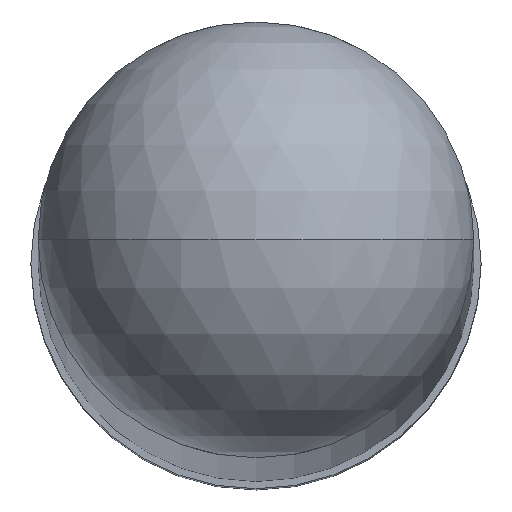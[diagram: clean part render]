
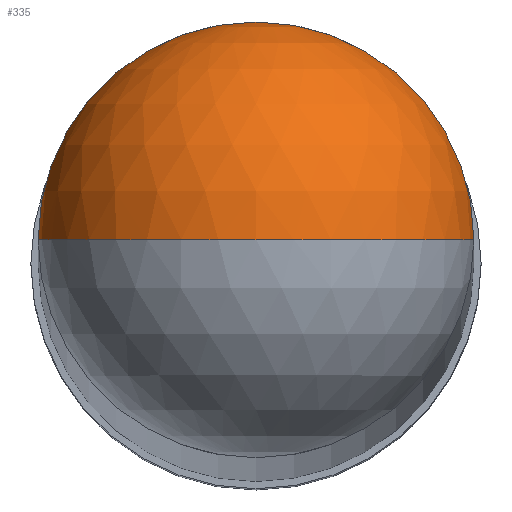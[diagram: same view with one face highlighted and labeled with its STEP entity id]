
A CAD part, top view. The second image highlights one B-rep face of the part: STEP entity #335.
In plain terms, the highlighted spherical face has radius 3 mm.
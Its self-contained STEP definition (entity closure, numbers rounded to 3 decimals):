
#2 = DIRECTION ( 'NONE',  ( -1., 0., 0. ) ) ;
#5 = CIRCLE ( 'NONE', #291, 3. ) ;
#7 = AXIS2_PLACEMENT_3D ( 'NONE', #170, #198, #2 ) ;
#22 = EDGE_CURVE ( 'NONE', #228, #309, #38, .T. ) ;
#25 = DIRECTION ( 'NONE',  ( 0., 1., 0. ) ) ;
#36 = ORIENTED_EDGE ( 'NONE', *, *, #46, .F. ) ;
#38 = CIRCLE ( 'NONE', #7, 3. ) ;
#42 = CIRCLE ( 'NONE', #104, 3. ) ;
#46 = EDGE_CURVE ( 'NONE', #202, #309, #5, .T. ) ;
#48 = CARTESIAN_POINT ( 'NONE',  ( 0., 0., 217. ) ) ;
#71 = SPHERICAL_SURFACE ( 'NONE', #148, 3. ) ;
#104 = AXIS2_PLACEMENT_3D ( 'NONE', #142, #281, #111 ) ;
#111 = DIRECTION ( 'NONE',  ( -1., 0., 0. ) ) ;
#125 = ORIENTED_EDGE ( 'NONE', *, *, #22, .T. ) ;
#142 = CARTESIAN_POINT ( 'NONE',  ( 0., 0., 217. ) ) ;
#148 = AXIS2_PLACEMENT_3D ( 'NONE', #261, #25, #164 ) ;
#164 = DIRECTION ( 'NONE',  ( 1., 0., 0. ) ) ;
#170 = CARTESIAN_POINT ( 'NONE',  ( 0., 0., 217. ) ) ;
#198 = DIRECTION ( 'NONE',  ( 0., 1., 0. ) ) ;
#202 = VERTEX_POINT ( 'NONE', #249 ) ;
#204 = EDGE_CURVE ( 'NONE', #228, #202, #42, .T. ) ;
#209 = FACE_OUTER_BOUND ( 'NONE', #282, .T. ) ;
#228 = VERTEX_POINT ( 'NONE', #360 ) ;
#245 = DIRECTION ( 'NONE',  ( 0., 0., -1. ) ) ;
#249 = CARTESIAN_POINT ( 'NONE',  ( 3., 0., 217. ) ) ;
#251 = DIRECTION ( 'NONE',  ( 0., -1., 0. ) ) ;
#258 = CARTESIAN_POINT ( 'NONE',  ( 0., 0., 220. ) ) ;
#261 = CARTESIAN_POINT ( 'NONE',  ( 0., 0., 217. ) ) ;
#281 = DIRECTION ( 'NONE',  ( 0., 0., -1. ) ) ;
#282 = EDGE_LOOP ( 'NONE', ( #310, #125, #36 ) ) ;
#291 = AXIS2_PLACEMENT_3D ( 'NONE', #48, #251, #245 ) ;
#309 = VERTEX_POINT ( 'NONE', #258 ) ;
#310 = ORIENTED_EDGE ( 'NONE', *, *, #204, .F. ) ;
#335 = ADVANCED_FACE ( 'NONE', ( #209 ), #71, .T. ) ;
#360 = CARTESIAN_POINT ( 'NONE',  ( -3., 0., 217. ) ) ;
